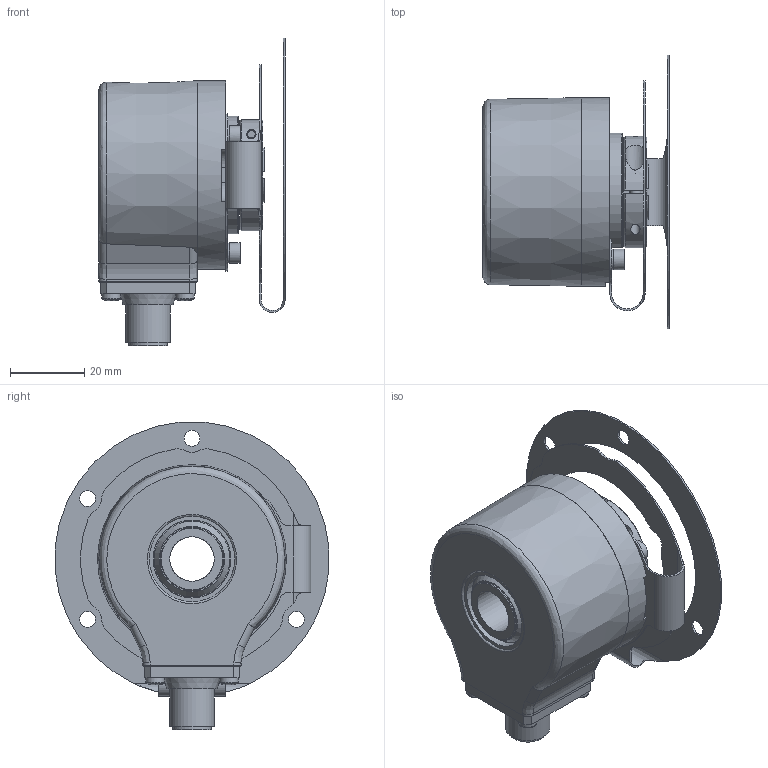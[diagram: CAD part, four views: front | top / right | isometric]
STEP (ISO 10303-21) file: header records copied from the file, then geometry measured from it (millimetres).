
FILE_DESCRIPTION (( 'STEP AP214' ), '1' );
FILE_NAME ('8.5020.85X2.XXXX.STEP', '2017-01-11T07:00:17', ( 'HeirlerN' ), ( 'Microsoft' ), 'SwSTEP 2.0', 'SolidWorks 2013', '' );
FILE_SCHEMA (( 'AUTOMOTIVE_DESIGN' ));
Length unit declared in the file: millimetre
Products named in the file (1): 8.5020.85X2.XXXX
Bounding box: 50.2 x 73.73 x 82.86 mm (x, y, z)
Volume: 41975.9 mm3; surface area: 41712.8 mm2
Topology: 17 solids, 17 shells, 534 faces, 1280 edges, 820 vertices
Faces by surface type: plane 234, cylinder 187, cone 63, bspline 50
Full cylindrical faces by diameter (mm): 0.8 x9, 1.5 x8, 2 x2, 2.05 x1, 2.2 x4, 2.5 x11, 2.7 x4, 3 x3, 3.2 x3, 3.3 x2, 4.3 x4, 5 x4, 5.5 x5, 5.6 x1, 10.5 x1, 12 x3, 12.3 x1, 17 x2, 18 x1, 19 x1, 19.8 x1, 20 x1, 21 x1, 23 x3, 24 x1, 26 x2, 46 x1, 46.5 x2, 48.45 x4, 48.5 x1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
Entity records: 23046 total; most frequent: CARTESIAN_POINT 5723, DIRECTION 2275, ORIENTED_EDGE 2114, EDGE_CURVE 1057, AXIS2_PLACEMENT_3D 909, EDGE_LOOP 787, VERTEX_POINT 766, FACE_OUTER_BOUND 639
